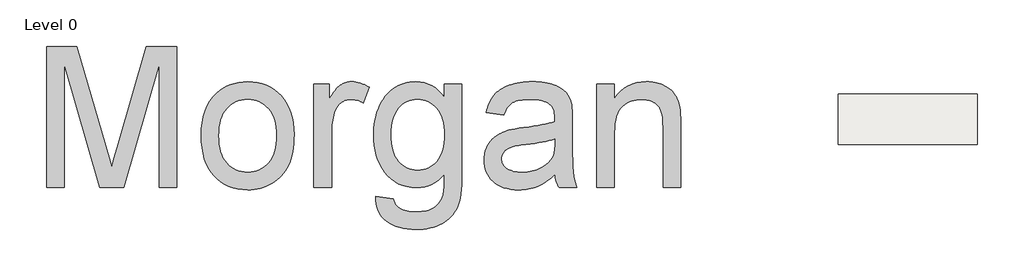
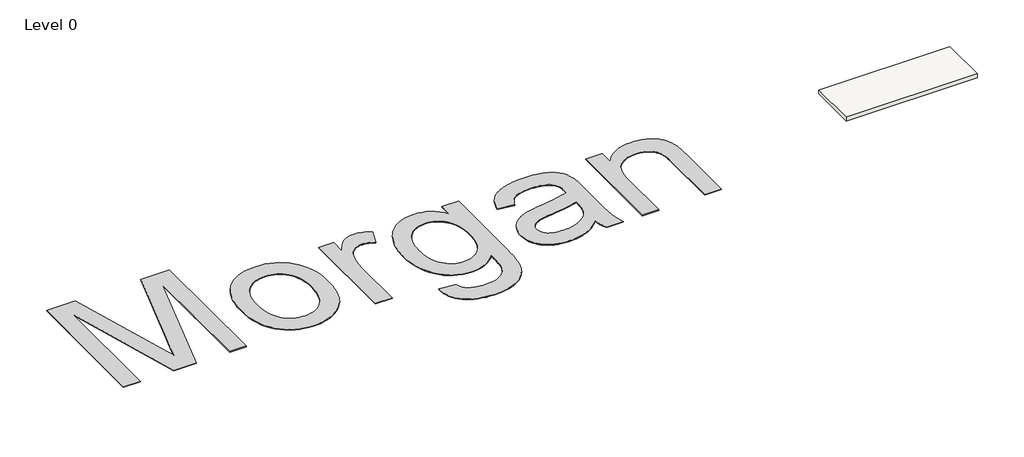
# One storey, incomplete: 1 proxy, 1 slab.
"""IFC4 building model written with IfcOpenShell, lengths in millimetres."""

from ifc_helpers import new_model, si_unit, frame, origin, origin_with_axes, place, context, project, spatial, polyline, outline, extrude, element, save

model = new_model("IFC4")

# Units and contexts
model_context = context("Model", 3, world=origin())
ifc_project = project(units=[si_unit("LENGTHUNIT", "METRE", prefix="MILLI")], contexts=[model_context])

# Site, building, storey
site = spatial("IfcSite", under=ifc_project)
building = spatial("IfcBuilding", under=site)
storey = spatial("IfcBuildingStorey", under=building, Name="Level 0", Elevation=0.0)

# Proxy
placement = place(None, origin())
element("IfcBuildingElementProxy", 1, Name="10 mm", ObjectType="10 mm", at=placement, inside=storey, context=model_context, shape_type="SweptSolid", body=[
    extrude(outline(polyline([(-161276.3001225, 70710.4267394), (-161276.3001225, 80756.0577544), (-159115.6065375, 80756.0577544), (-157060.3724577, 73675.5556205), (-156814.5046576, 72811.6460685), (-156645.8920765, 72196.6699999), (-156461.3379423, 72869.2809144), (-156197.0760424, 73798.1829523), (-154176.1776156, 80756.0577544), (-152015.4840305, 80756.0577544), (-152015.4840305, 70710.4267394), (-153271.1879074, 70710.4267394), (-153271.1879074, 79500.3538775), (-155794.8583943, 70710.4267394), (-157496.9257587, 70710.4267394), (-160020.5962456, 79500.3538775), (-160020.5962456, 70710.4267394), (-161276.3001225, 70710.4267394)])), origin_with_axes(), (0.0, 0.0, 1.0), 50.0),
    extrude(outline(polyline([(-150288.8911998, 74399.0568777), (-150271.9149786, 74893.2833456), (-150220.9863149, 75354.477076), (-150136.1052087, 75782.638069), (-150017.2716601, 76177.7663244), (-149864.485669, 76539.8618424), (-149677.7472354, 76868.9246228), (-149457.0563593, 77164.9546658), (-149202.4130408, 77427.9519713), (-148969.3444684, 77619.365572), (-148723.8598787, 77785.2573592), (-148465.9592717, 77925.6273329), (-148195.6426473, 78040.4754933), (-147912.9100056, 78129.8018403), (-147617.7613465, 78193.6063738), (-147310.1966702, 78231.8890939), (-146990.2159764, 78244.6500006), (-146635.5355799, 78229.1108184), (-146297.4481943, 78182.4932719), (-145975.9538194, 78104.7973609), (-145671.0524554, 77996.0230856), (-145382.7441022, 77856.1704458), (-145111.0287598, 77685.2394417), (-144855.9064283, 77483.2300732), (-144617.3771075, 77250.1423403), (-144401.5338432, 76989.655063), (-144214.4696807, 76705.4470612), (-144056.1846202, 76397.518335), (-143926.6786616, 76065.8688842), (-143825.9518049, 75710.498709), (-143754.0040501, 75331.4078092), (-143710.8353972, 74928.596185), (-143696.4458463, 74502.0638364), (-143702.8071391, 74156.5230082), (-143721.8910176, 73829.9127743), (-143753.6974818, 73522.2331348), (-143798.2265316, 73233.4840897), (-143855.4781671, 72963.6656388), (-143925.4523883, 72712.7777823), (-144008.1491951, 72480.8205202), (-144103.5685876, 72267.7938523), (-144211.1549107, 72069.9231563), (-144330.3525092, 71883.4338094), (-144461.1613832, 71708.3258118), (-144603.5815327, 71544.5991635), (-144757.6129577, 71392.2538643), (-144923.2556581, 71251.2899144), (-145100.509634, 71121.7073137), (-145289.3748854, 71003.5060622), (-145486.2875554, 70898.0273964), (-145687.6837873, 70806.6125527), (-145893.5635809, 70729.2615311), (-146103.9269364, 70665.9743317), (-146318.7738537, 70616.7509543), (-146538.1043328, 70581.591399), (-146761.9183737, 70560.4956659), (-146990.2159764, 70553.4637548), (-147350.4912449, 70568.9454554), (-147693.1005135, 70615.3905573), (-148018.043782, 70692.7990605), (-148325.3210506, 70801.1709649), (-148614.9323192, 70940.5062706), (-148886.8775878, 71110.8049775), (-149141.1568565, 71312.0670857), (-149377.7701251, 71544.2925951), (-149591.314127, 71805.6420959), (-149776.3855953, 72094.2761779), (-149932.98453, 72410.1948413), (-150061.1109312, 72753.398086), (-150160.7647987, 73123.8859119), (-150231.9461327, 73521.6583192), (-150274.6549331, 73946.7153078), (-150288.8911998, 74399.0568777)]), holes=[polyline([(-149033.187323, 74401.5094244), (-149024.1052362, 74086.7595527), (-148996.858976, 73792.4347961), (-148951.4485422, 73518.5351544), (-148887.8739349, 73265.0606276), (-148806.1351541, 73032.0112157), (-148706.2321998, 72819.3869188), (-148588.1650719, 72627.1877369), (-148451.9337706, 72455.4136699), (-148301.9452155, 72303.9497547), (-148142.6063263, 72172.6810282), (-147973.9171031, 72061.6074903), (-147795.8775459, 71970.7291412), (-147608.4876546, 71900.0459808), (-147411.7474292, 71849.5580091), (-147205.6568699, 71819.265226), (-146990.2159764, 71809.1676317), (-146775.9247142, 71819.3227076), (-146570.8305019, 71849.7879353), (-146374.9333395, 71900.5633148), (-146188.2332269, 71971.6488462), (-146010.7301643, 72063.0445294), (-145842.4241515, 72174.7503644), (-145683.3151886, 72306.7663512), (-145533.4032755, 72459.0924898), (-145397.1719742, 72632.2269538), (-145279.1048464, 72826.6679167), (-145179.201892, 73042.4153784), (-145097.4631112, 73279.4693391), (-145033.888504, 73537.8297986), (-144988.4780702, 73817.496757), (-144961.2318099, 74118.4702143), (-144952.1497232, 74440.7501705), (-144961.2892915, 74745.153361), (-144988.7079964, 75030.510994), (-145034.405838, 75296.8230696), (-145098.3828162, 75544.0895877), (-145180.6389311, 75772.3105484), (-145281.1741826, 75981.4859516), (-145399.9885707, 76171.6157973), (-145537.0820955, 76342.7000856), (-145687.7412688, 76494.1640008), (-145847.2526027, 76625.4327273), (-146015.616097, 76736.5062651), (-146192.8317519, 76827.3846142), (-146378.8995673, 76898.0677746), (-146573.8195431, 76948.5557464), (-146777.5916795, 76978.8485294), (-146990.2159764, 76988.9461238), (-147205.6568699, 76978.8868505), (-147411.7474292, 76948.7090305), (-147608.4876546, 76898.412664), (-147795.8775459, 76827.9977509), (-147973.9171031, 76737.4642911), (-148142.6063263, 76626.8122848), (-148301.9452155, 76496.0417318), (-148451.9337706, 76345.1526322), (-148588.1650719, 76173.9533808), (-148706.2321998, 75982.2523724), (-148806.1351541, 75770.0496069), (-148887.8739349, 75537.3450845), (-148951.4485422, 75284.138805), (-148996.858976, 75010.4307685), (-149024.1052362, 74716.2209749), (-149033.187323, 74401.5094244)])]), origin_with_axes(), (0.0, 0.0, 1.0), 50.0),
    extrude(outline(polyline([(-142283.7789848, 70710.4267394), (-142283.7789848, 78087.687016), (-141185.0380925, 78087.687016), (-141185.0380925, 76996.3037637), (-141080.5749343, 77178.8652038), (-140978.1044703, 77345.1785224), (-140877.6267003, 77495.2437196), (-140779.1416245, 77629.0607954), (-140682.6492429, 77746.6297497), (-140588.1495554, 77847.9505825), (-140495.642562, 77933.0232939), (-140405.1282628, 78001.8478838), (-140314.5373215, 78058.7546299), (-140221.8004018, 78108.0738099), (-140126.9175039, 78149.8054237), (-140029.8886277, 78183.9494714), (-139930.7137732, 78210.505953), (-139829.3929403, 78229.4748683), (-139725.9261292, 78240.8562176), (-139620.3133397, 78244.6500006), (-139464.8831968, 78238.5952761), (-139308.8399171, 78220.4311026), (-139152.1835009, 78190.1574801), (-138994.9139479, 78147.7744086), (-138837.0312583, 78093.281888), (-138678.5354321, 78026.6799185), (-138519.4264692, 77947.9684999), (-138359.7043696, 77857.1476324), (-138779.0898441, 76731.4287271), (-138889.4544426, 76791.784367), (-138999.8190412, 76844.0925882), (-139110.1836397, 76888.3533907), (-139220.5482383, 76924.5667746), (-139330.9128368, 76952.7327399), (-139441.2774354, 76972.8512865), (-139551.642034, 76984.9224144), (-139662.0066325, 76988.9461238), (-139759.4762007, 76985.0756986), (-139854.4549012, 76973.4644231), (-139946.9427341, 76954.1122973), (-140036.9396993, 76927.0193212), (-140124.4457968, 76892.1854948), (-140209.4610266, 76849.6108181), (-140291.9853887, 76799.295291), (-140372.0188832, 76741.2389137), (-140448.0286683, 76676.3230699), (-140518.4819025, 76605.4291438), (-140583.3785857, 76528.5571352), (-140642.718718, 76445.7070442), (-140696.5022993, 76356.8788708), (-140744.7293296, 76262.072615), (-140787.3998089, 76161.2882767), (-140824.5137373, 76054.525856), (-140872.2234335, 75885.1468541), (-140913.5718369, 75711.7824638), (-140948.5589475, 75534.4326853), (-140977.1847653, 75353.0975185), (-140999.4492902, 75167.7769635), (-141015.3525223, 74978.4710201), (-141024.8944615, 74785.1796885), (-141028.0751079, 74587.9029686), (-141028.0751079, 70710.4267394), (-142283.7789848, 70710.4267394)])), origin_with_axes(), (0.0, 0.0, 1.0), 50.0),
    extrude(outline(polyline([(-137888.8154158, 70082.574801), (-136633.1115389, 69925.6118164), (-136610.6554088, 69816.0136386), (-136580.0752179, 69714.0796691), (-136541.3709663, 69619.8099079), (-136494.542654, 69533.2043548), (-136439.590281, 69454.26301), (-136376.5138473, 69382.9858735), (-136305.3133528, 69319.3729451), (-136225.9887976, 69263.424225), (-136109.3012272, 69197.8952447), (-135982.4202599, 69141.1034617), (-135845.3458957, 69093.048876), (-135698.0781345, 69053.7314878), (-135540.6169763, 69023.1512969), (-135372.9624212, 69001.3083035), (-135195.1144692, 68988.2025074), (-135007.0731202, 68983.8339087), (-134805.1212333, 68988.777323), (-134614.972227, 69003.607566), (-134436.6261014, 69028.3246375), (-134270.0828565, 69062.9285377), (-134115.3424923, 69107.4192665), (-133972.4050088, 69161.7968239), (-133841.2704059, 69226.0612099), (-133721.9386837, 69300.2124246), (-133613.1069268, 69383.2924418), (-133513.4722198, 69474.3432356), (-133423.0345626, 69573.364806), (-133341.7939554, 69680.3571529), (-133269.750398, 69795.3202764), (-133206.9038905, 69918.2541765), (-133153.2544328, 70049.1588531), (-133108.8020251, 70188.0343063), (-133087.0739948, 70287.0941977), (-133068.4882898, 70410.1430608), (-133053.0449102, 70557.1808958), (-133040.743856, 70728.2077025), (-133031.5851271, 70923.223481), (-133025.5687237, 71142.2282312), (-133022.6946456, 71385.2219533), (-133022.6946456, 71652.2046471), (-133225.8344848, 71431.47545), (-133440.8155257, 71240.1768125), (-133667.9060157, 71078.3087346), (-133907.1059546, 70945.8712163), (-134158.4153426, 70842.8642577), (-134421.8341795, 70769.2878586), (-134697.3624655, 70725.1420192), (-134985.0002005, 70710.4267394), (-135339.5273128, 70727.5562448), (-135673.4760261, 70778.944761), (-135986.8463402, 70864.592288), (-136279.6382552, 70984.4988258), (-136551.8517711, 71138.6643744), (-136803.4868879, 71327.0889338), (-137034.5436056, 71549.772504), (-137245.0219242, 71806.715085), (-137432.6992233, 72087.6083168), (-137595.3528825, 72382.1438392), (-137732.9829019, 72690.3216522), (-137845.5892813, 73012.1417559), (-137933.1720209, 73347.6041503), (-137995.7311206, 73696.7088353), (-138033.2665804, 74059.4558109), (-138045.7784004, 74435.8450772), (-138040.1643678, 74696.9454912), (-138023.3222702, 74952.9492067), (-137995.2521076, 75203.8562237), (-137955.9538799, 75449.6665423), (-137905.4275871, 75690.3801623), (-137843.6732293, 75925.9970839), (-137770.6908064, 76156.5173071), (-137686.4803184, 76381.9408317), (-137591.6357415, 76598.4738748), (-137486.7510519, 76802.3226533), (-137371.8262494, 76993.4871671), (-137246.8613342, 77171.9674164), (-137111.8563062, 77337.763401), (-136966.8111653, 77490.8751209), (-136811.7259118, 77631.3025763), (-136646.6005454, 77759.045767), (-136472.7188211, 77872.8592593), (-136291.3644938, 77971.4976192), (-136102.5375634, 78054.9608469), (-135906.2380301, 78123.2489422), (-135702.4658937, 78176.3619053), (-135491.2211543, 78214.299736), (-135272.5038118, 78237.0624345), (-135046.3138664, 78244.6500006), (-134745.9152247, 78227.4821742), (-134459.0822316, 78175.9786949), (-134185.814887, 78090.1395627), (-133926.113191, 77969.9647776), (-133679.9771436, 77815.4543396), (-133447.4067448, 77626.6082487), (-133228.4019946, 77403.426505), (-133022.9628929, 77145.9091084), (-133022.9628929, 78087.687016), (-131767.259016, 78087.687016), (-131767.259016, 71718.4234062), (-131772.6239618, 71303.6939382), (-131788.7187991, 70920.3494029), (-131815.5435279, 70568.3898003), (-131853.0981482, 70247.8151305), (-131901.3826601, 69958.6253933), (-131960.3970635, 69700.8205889), (-132030.1413584, 69474.4007172), (-132110.6155448, 69279.3657782), (-132202.7201673, 69104.7176331), (-132307.3557702, 68939.458143), (-132424.5223535, 68783.5873081), (-132554.2199174, 68637.1051283), (-132696.4484616, 68500.0116035), (-132851.2079864, 68372.3067338), (-133018.4984916, 68253.9905192), (-133198.3199773, 68145.0629597), (-133389.7910594, 68047.3443047), (-133592.0303542, 67962.6548038), (-133805.0378615, 67890.9944568), (-134028.8135814, 67832.3632638), (-134263.3575138, 67786.7612248), (-134508.6696588, 67754.1883398), (-134764.7500164, 67734.6446088), (-135031.5985865, 67728.1300318), (-135346.9615948, 67737.3079212), (-135646.8045814, 67764.8415893), (-135931.1275463, 67810.7310361), (-136199.9304896, 67874.9762616), (-136453.2134111, 67957.5772658), (-136690.976311, 68058.5340488), (-136913.2191893, 68177.8466104), (-137119.9420458, 68315.5149508), (-137306.0481823, 68471.615712), (-137466.4409, 68646.2255361), (-137601.1201992, 68839.344423), (-137710.0860798, 69050.9723728), (-137793.3385417, 69281.1093855), (-137850.877585, 69529.7554611), (-137882.7032097, 69796.9105996), (-137888.8154158, 70082.574801)]), holes=[polyline([(-136790.0745235, 74521.6842094), (-136781.701376, 74199.9982294), (-136756.5819335, 73900.8067005), (-136714.716196, 73624.1096228), (-136656.1041636, 73369.9069962), (-136580.7458361, 73138.1988208), (-136488.6412137, 72928.9850966), (-136379.7902963, 72742.2658235), (-136254.1930839, 72578.0410016), (-136115.9499279, 72434.624505), (-135969.1611797, 72310.330208), (-135813.8268393, 72205.1581105), (-135649.9469068, 72119.1082126), (-135477.5213821, 72052.1805142), (-135296.5502652, 72004.3750154), (-135107.0335561, 71975.6917161), (-134908.9712548, 71966.1306163), (-134713.0932529, 71975.6342345), (-134525.2243486, 72004.1450891), (-134345.3645419, 72051.6631802), (-134173.5138328, 72118.1885076), (-134009.6722213, 72203.7210715), (-133853.8397074, 72308.2608718), (-133706.0162911, 72431.8079085), (-133566.2019724, 72574.3621816), (-133438.8803132, 72737.2649276), (-133328.5348751, 72921.8573829), (-133235.1656583, 73128.1395475), (-133158.7726628, 73356.1114214), (-133099.3558884, 73605.7730046), (-133056.9153354, 73877.1242971), (-133031.4510035, 74170.1652988), (-133022.9628929, 74484.8960099), (-133031.7000903, 74785.6203805), (-133057.9116824, 75067.2991935), (-133101.5976694, 75329.9324492), (-133162.7580511, 75573.5201473), (-133241.3928275, 75798.062288), (-133337.5019988, 76003.5588713), (-133451.0855648, 76190.009897), (-133582.1435256, 76357.4153654), (-133725.5025405, 76505.4303869), (-133875.9892692, 76633.7100722), (-134033.6037115, 76742.2544213), (-134198.3458675, 76831.0634342), (-134370.2157371, 76900.1371109), (-134549.2133204, 76949.4754514), (-134735.3386173, 76979.0784557), (-134928.5916279, 76988.9461238), (-135118.7214736, 76979.2317398), (-135301.6086426, 76950.088588), (-135477.2531348, 76901.5166683), (-135645.6549502, 76833.5159808), (-135806.8140888, 76746.0865254), (-135960.7305506, 76639.2283021), (-136107.4043357, 76512.9413109), (-136246.835444, 76367.2255519), (-136374.1571032, 76202.3875933), (-136484.5025413, 76018.7340036), (-136577.871758, 75816.2647826), (-136654.2647536, 75594.9799304), (-136713.6815279, 75354.879447), (-136756.122081, 75095.9633323), (-136781.5864129, 74818.2315865), (-136790.0745235, 74521.6842094)])]), origin_with_axes(), (0.0, 0.0, 1.0), 50.0),
    extrude(outline(polyline([(-125174.8136624, 71652.2046471), (-125323.1352523, 71506.92958), (-125472.5681523, 71372.7676149), (-125623.1123625, 71249.7187517), (-125774.7678829, 71137.7829905), (-125927.5347135, 71036.9603312), (-126081.4128543, 70947.2507738), (-126236.4023053, 70868.6543184), (-126392.5030665, 70801.1709649), (-126550.5965218, 70743.1145875), (-126711.5640552, 70692.7990605), (-126875.4056667, 70650.2243837), (-127042.1213563, 70615.3905573), (-127211.711124, 70588.2975812), (-127384.1749697, 70568.9454554), (-127559.5128936, 70557.33418), (-127737.7248955, 70553.4637548), (-128025.8799645, 70562.7757678), (-128296.8288861, 70590.7118068), (-128550.5716602, 70637.2718718), (-128787.1082868, 70702.4559628), (-129006.4387659, 70786.2640799), (-129208.5630975, 70888.6962229), (-129393.4812816, 71009.7523919), (-129561.1933183, 71149.432587), (-129710.357971, 71303.5981356), (-129839.6340034, 71468.1103653), (-129949.0214154, 71642.9692761), (-130038.520207, 71828.1748681), (-130108.1303783, 72023.7271412), (-130157.8519292, 72229.6260953), (-130187.6848597, 72445.8717306), (-130197.6291699, 72672.464047), (-130193.8737079, 72807.0858646), (-130182.6073218, 72938.718641), (-130163.8300116, 73067.3623762), (-130137.5417774, 73193.0170702), (-130103.7426191, 73315.682723), (-130062.4325367, 73435.3593345), (-130013.6115303, 73552.0469049), (-129957.2795997, 73665.745434), (-129894.8354632, 73775.1903276), (-129827.6778385, 73879.1169912), (-129755.8067258, 73977.5254249), (-129679.2221251, 74070.4156287), (-129597.9240362, 74157.7876025), (-129511.9124593, 74239.6413465), (-129421.1873944, 74315.9768605), (-129325.7488414, 74386.7941445), (-129226.4398632, 74452.7829774), (-129124.1035228, 74514.6331379), (-129018.7398201, 74572.3446259), (-128910.3487551, 74625.9174414), (-128798.930328, 74675.3515845), (-128684.4845385, 74720.6470552), (-128567.0113868, 74761.8038534), (-128446.5108729, 74798.8219791), (-128243.4093547, 74847.4130593), (-127994.6291555, 74895.0844345), (-127700.1702752, 74941.8361048), (-127360.0327138, 74987.66807), (-127002.4973997, 75034.1131719), (-126669.3342679, 75082.7042521), (-126360.5433182, 75133.4413106), (-126076.1245506, 75186.3243474), (-125816.0779653, 75241.3533625), (-125580.4035621, 75298.5283559), (-125369.1013411, 75357.8493276), (-125182.1713023, 75419.3162777), (-125174.8136624, 75698.906594), (-125180.2169293, 75857.172494), (-125196.4267297, 76003.328945), (-125223.4430637, 76137.375947), (-125261.2659313, 76259.3135), (-125309.8953326, 76369.141604), (-125369.3312674, 76466.8602589), (-125439.5737359, 76552.4694649), (-125520.6227379, 76625.9692219), (-125644.2464167, 76711.0419332), (-125782.1255228, 76784.7716164), (-125934.2600562, 76847.1582715), (-126100.650017, 76898.2018983), (-126281.295405, 76937.9024969), (-126476.1962204, 76966.2600674), (-126685.3524631, 76983.2746097), (-126908.764133, 76988.9461238), (-127116.9240287, 76985.1715012), (-127310.9817811, 76973.8476335), (-127490.9373904, 76954.9745208), (-127656.7908566, 76928.5521629), (-127808.5421796, 76894.5805599), (-127946.1913594, 76853.0597118), (-128069.7383962, 76803.9896186), (-128179.1832897, 76747.3702803), (-128278.2431811, 76681.1323606), (-128370.6352114, 76603.2065234), (-128456.3593805, 76513.5927686), (-128535.4156884, 76412.2910963), (-128607.8041351, 76299.3015064), (-128673.5247207, 76174.623999), (-128732.5774452, 76038.258574), (-128784.9623084, 75890.2052315), (-130040.6661853, 76047.1682161), (-129996.2329381, 76232.6420553), (-129945.0935087, 76408.9188447), (-129887.247897, 76575.9985842), (-129822.6961032, 76733.8812738), (-129751.4381271, 76882.5669135), (-129673.4739689, 77022.0555033), (-129588.8036284, 77152.3470433), (-129497.4271058, 77273.4415334), (-129397.4475094, 77386.6035679), (-129286.9679477, 77493.0977413), (-129165.9884207, 77592.9240536), (-129034.5089285, 77686.0825046), (-128892.529471, 77772.5730945), (-128740.0500482, 77852.3958233), (-128577.0706601, 77925.5506909), (-128403.5913068, 77992.0376973), (-128221.3172745, 78051.2437059), (-128031.9538496, 78102.55558), (-127835.501032, 78145.9733196), (-127631.9588219, 78181.4969248), (-127421.3272191, 78209.1263955), (-127203.6062238, 78228.8617317), (-126978.7958358, 78240.7029334), (-126746.8960552, 78244.6500006), (-126518.176921, 78241.1627859), (-126300.4559256, 78230.7011416), (-126093.733069, 78213.2650679), (-125898.0083513, 78188.8545647), (-125713.2817724, 78157.469632), (-125539.5533322, 78119.1102698), (-125376.8230309, 78073.7764781), (-125225.0908685, 78021.4682569), (-125083.7053871, 77963.8908925), (-124952.0151291, 77902.7496714), (-124830.0200946, 77838.0445934), (-124717.7202834, 77769.7756585), (-124615.1156957, 77697.9428669), (-124522.2063314, 77622.5462184), (-124438.9921905, 77543.5857131), (-124365.4732731, 77461.0613509), (-124299.369477, 77373.9767849), (-124238.4007006, 77281.3356678), (-124182.5669436, 77183.1379999), (-124131.8682061, 77079.3837809), (-124086.3044882, 76970.073011), (-124045.8757897, 76855.2056901), (-124010.5821108, 76734.7818182), (-123980.4234514, 76608.8013954), (-123966.053061, 76521.8892741), (-123953.5987226, 76420.5684412), (-123934.438202, 76174.7006411), (-123922.9418897, 75871.1979951), (-123919.1097856, 75510.0605032), (-123919.1097856, 73947.788297), (-123915.1243973, 73199.8382155), (-123903.1682325, 72586.9314831), (-123894.2011088, 72331.1193728), (-123883.241291, 72109.0680998), (-123870.2887791, 71920.7776641), (-123855.3435731, 71766.2480656), (-123837.4859679, 71629.307825), (-123815.7962586, 71493.7854629), (-123790.2744452, 71359.6809793), (-123760.9205277, 71226.9943743), (-123727.734506, 71095.7256478), (-123690.7163802, 70965.8747998), (-123649.8661504, 70837.4418303), (-123605.1838164, 70710.4267394), (-124860.8876932, 70710.4267394), (-124919.4422441, 70813.1271297), (-124972.4785651, 70920.1194767), (-125019.9966561, 71031.4037802), (-125061.9965173, 71146.9800404), (-125098.4781484, 71266.8482571), (-125129.4415497, 71391.0084305), (-125154.886721, 71519.4605605), (-125174.8136624, 71652.2046471)]), holes=[polyline([(-125174.8136624, 74163.6124008), (-125354.0028509, 74108.2384963), (-125554.3452541, 74054.9339281), (-125775.8408721, 74003.698696), (-126018.4897047, 73954.5328002), (-126282.2917521, 73907.4362406), (-126567.2470142, 73862.4090173), (-126873.355491, 73819.4511301), (-127200.6171826, 73778.5625792), (-127554.1671083, 73731.810909), (-127852.0748823, 73682.3001238), (-127980.1629624, 73656.5100631), (-128094.3405046, 73630.0302236), (-128194.6075088, 73602.8606054), (-128280.9639751, 73575.0012085), (-128358.0850704, 73545.1491175), (-128430.6459618, 73512.0014168), (-128498.6466494, 73475.5581067), (-128562.087133, 73435.819187), (-128620.9674128, 73392.7846578), (-128675.2874886, 73346.454519), (-128725.0473606, 73296.8287707), (-128770.2470286, 73243.9074129), (-128810.4841219, 73188.6101505), (-128845.3562693, 73131.8566885), (-128874.863471, 73073.647027), (-128899.005727, 73013.9811659), (-128917.7830371, 72952.8591052), (-128931.1954015, 72890.280845), (-128939.2428202, 72826.2463852), (-128941.9252931, 72760.7557259), (-128936.0813343, 72661.0826978), (-128918.5494579, 72565.6249843), (-128889.3296641, 72474.3825852), (-128848.4219526, 72387.3555008), (-128795.8263236, 72304.5437308), (-128731.5427771, 72225.9472754), (-128655.571313, 72151.5661345), (-128567.9119313, 72081.4003081), (-128468.9478425, 72017.5957746), (-128359.0622569, 71962.2985122), (-128238.2551747, 71915.5085209), (-128106.5265957, 71877.2258008), (-127963.8765199, 71847.4503518), (-127810.3049475, 71826.1821739), (-127645.8118783, 71813.4212672), (-127470.3973123, 71809.1676317), (-127294.4270913, 71813.8619592), (-127123.3619636, 71827.9449418), (-126957.2019291, 71851.4165796), (-126795.9469879, 71884.2768724), (-126639.5971399, 71926.5258202), (-126488.1523852, 71978.1634232), (-126341.6127238, 72039.1896813), (-126199.9781557, 72109.6045944), (-126065.3946591, 72186.6873687), (-125940.0082124, 72267.7172102), (-125823.8188156, 72352.694119), (-125716.8264687, 72441.618095), (-125619.0311716, 72534.4891383), (-125530.4329245, 72631.3072488), (-125451.0317272, 72732.0724266), (-125380.8275797, 72836.7846715), (-125334.2675147, 72923.8500771), (-125293.9154584, 73020.7256691), (-125259.7714107, 73127.4114477), (-125231.8353717, 73243.9074129), (-125210.1073414, 73370.2135645), (-125194.5873197, 73506.3299028), (-125185.2753067, 73652.2564275), (-125182.1713023, 73807.9931388), (-125174.8136624, 74163.6124008)])]), origin_with_axes(), (0.0, 0.0, 1.0), 50.0),
    extrude(outline(polyline([(-122192.5169549, 70710.4267394), (-122192.5169549, 78087.687016), (-120936.813078, 78087.687016), (-120936.813078, 77057.6174295), (-120729.6495295, 77335.8281884), (-120500.5663454, 77576.9441794), (-120249.5635258, 77780.9654025), (-119976.6410706, 77947.8918579), (-119681.7989799, 78077.7235453), (-119365.0372536, 78170.4604649), (-119026.3558918, 78226.1026167), (-118665.7548945, 78244.6500006), (-118506.1285975, 78240.9136991), (-118349.759589, 78229.7047946), (-118196.647869, 78211.023287), (-118046.7934376, 78184.8691764), (-117900.1962946, 78151.2424628), (-117756.8564401, 78110.1431461), (-117616.7738741, 78061.5712265), (-117479.9485967, 78005.5267038), (-117349.005599, 77943.408296), (-117226.5698725, 77876.6147213), (-117112.6414171, 77805.1459795), (-117007.2202329, 77729.0020707), (-116910.3063198, 77648.1829949), (-116821.8996778, 77562.6887521), (-116742.000307, 77472.5193422), (-116670.6082073, 77377.6747653), (-116605.9797714, 77278.212503), (-116546.3713918, 77174.1900367), (-116491.7830687, 77065.6073666), (-116442.2148019, 76952.4644926), (-116397.6665916, 76834.7614146), (-116358.1384376, 76712.4981328), (-116323.6303401, 76585.6746471), (-116294.1422989, 76454.2909574), (-116278.6222772, 76359.6763068), (-116265.1715918, 76248.7368926), (-116253.7902425, 76121.4727149), (-116244.4782295, 75977.8837737), (-116232.0622122, 75641.7316006), (-116227.9235397, 75240.2803734), (-116227.9235397, 70710.4267394), (-117483.6274166, 70710.4267394), (-117483.6274166, 75071.0546556), (-117485.888358, 75250.9719438), (-117492.6711823, 75419.1629935), (-117503.9758895, 75575.6278046), (-117519.8024795, 75720.3663771), (-117540.1509523, 75853.3787109), (-117565.021308, 75974.6648062), (-117594.4135466, 76084.2246629), (-117628.3276681, 76182.058281), (-117667.9707851, 76271.7103568), (-117714.5500107, 76356.7255866), (-117768.0653447, 76437.1039705), (-117828.5167871, 76512.8455083), (-117895.904338, 76583.9502002), (-117970.2279973, 76650.4180461), (-118051.4877651, 76712.249046), (-118139.6836413, 76769.4432), (-118233.3594265, 76820.8891977), (-118331.0589209, 76865.4757291), (-118432.7821247, 76903.2027942), (-118538.5290378, 76934.0703928), (-118648.2996602, 76958.0785251), (-118762.0939919, 76975.227191), (-118879.912033, 76985.5163906), (-119001.7537834, 76988.9461238), (-119195.7923753, 76981.2435945), (-119383.048143, 76958.1360067), (-119563.5210863, 76919.6233603), (-119737.2112054, 76865.7056554), (-119904.1185002, 76796.3828919), (-120064.2429707, 76711.6550699), (-120217.5846169, 76611.5221893), (-120364.1434389, 76495.9842502), (-120498.3628855, 76358.909886), (-120614.686406, 76194.16773), (-120713.1140002, 76001.7577823), (-120793.6456682, 75781.6800429), (-120856.28141, 75533.9345118), (-120901.0212256, 75258.5211889), (-120927.8651149, 74955.4400744), (-120936.813078, 74624.6911681), (-120936.813078, 70710.4267394), (-122192.5169549, 70710.4267394)])), origin_with_axes(), (0.0, 0.0, 1.0), 50.0),
])

# Slab
element("IfcSlab", 2, ObjectType="FL_300 mm_Generic", at=placement, inside=storey, context=model_context, shape_type="SweptSolid", body=[
    extrude(outline(polyline([(-95147.8885325, 77369.9753886), (-95147.8885325, 73769.9753886), (-105047.8885325, 73769.9753886), (-105047.8885325, 77369.9753886), (-95147.8885325, 77369.9753886)])), frame((0.0, 0.0, -300.0), z_axis=(0.0, 0.0, 1.0), x_axis=(1.0, 0.0, 0.0)), (0.0, 0.0, 1.0), 300.0),
])

save(model, "model.ifc")
